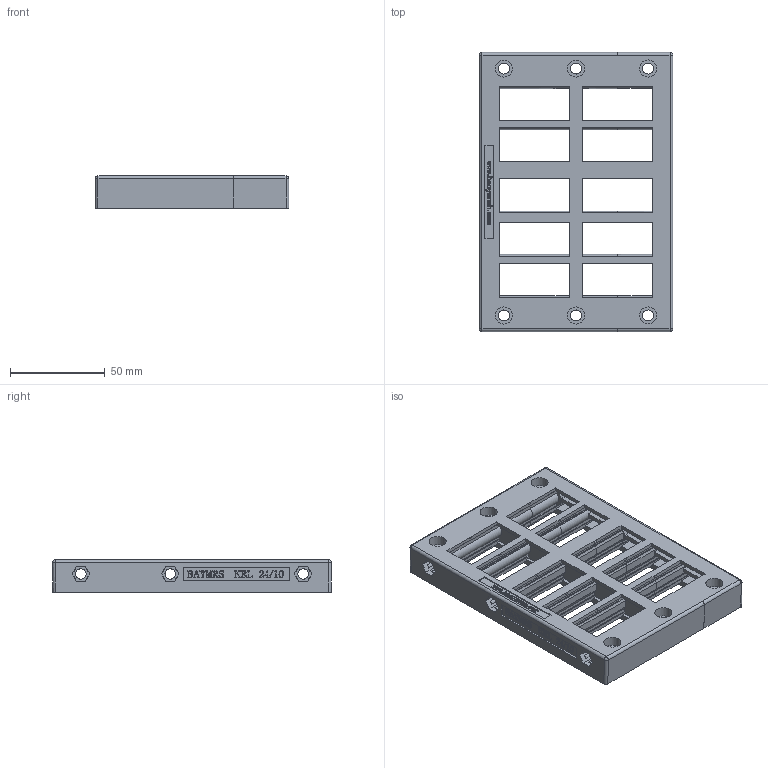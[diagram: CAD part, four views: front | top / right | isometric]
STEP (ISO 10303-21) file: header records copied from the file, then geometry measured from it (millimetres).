
FILE_DESCRIPTION(/* description */ (''),/* implementation_level */ '2;1');
FILE_NAME(/* name */ 'KEL 24-20-MT.stp',/* time_stamp */ '2019-09-18T19:19:29+08:00',/* author */ (''),/* organization */ (''),/* preprocessor_version */ 'ST-DEVELOPER v16.7',/* originating_system */ 'SIEMENS PLM Software NX 12.0',/* authorisation */ '');
FILE_SCHEMA (('AP203_CONFIGURATION_CONTROLLED_3D_DESIGN_OF_MECHANICAL_PARTS_AND_ASSEMBLIES_MIM_LF { 1 0 10303 403 2 1 2}'));
Products named in the file (1): 91473E20DB010b1c
Bounding box: 101.98 x 147.01 x 17 mm (x, y, z)
Volume: 97602.1 mm3; surface area: 66802.7 mm2
Topology: 1 solids, 11 shells, 1734 faces, 5046 edges, 3381 vertices
Faces by surface type: plane 1092, extrusion 277, cylinder 219, cone 64, bspline 40, torus 22, sphere 20
Full cylindrical faces by diameter (mm): 3 x3, 5.5 x6, 5.8 x6, 9 x9
Entity records: 62472 total; most frequent: CARTESIAN_POINT 19108, ORIENTED_EDGE 9970, DIRECTION 7292, EDGE_CURVE 4985, VERTEX_POINT 3370, VECTOR 2966, LINE 2689, AXIS2_PLACEMENT_3D 2163
